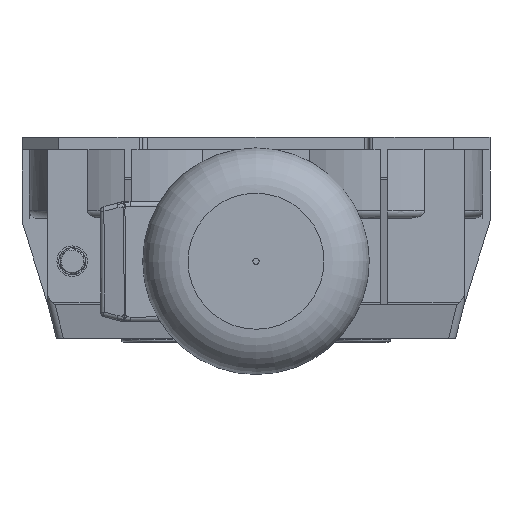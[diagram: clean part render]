
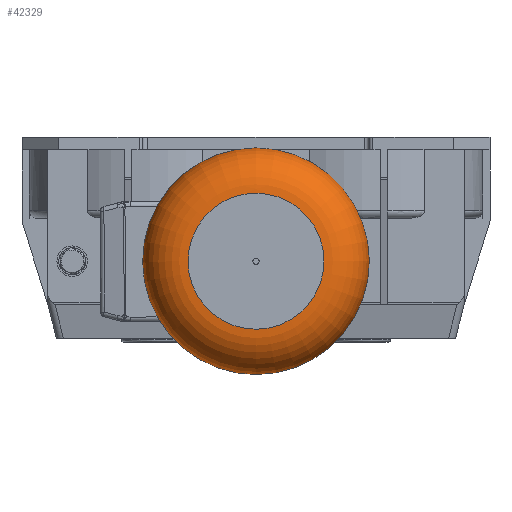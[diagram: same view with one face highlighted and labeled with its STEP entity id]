
A CAD part, front view. The second image highlights one B-rep face of the part: STEP entity #42329.
In plain terms, the highlighted toroidal (fillet/blend) face has major radius 55.5 mm and minor radius 37 mm.
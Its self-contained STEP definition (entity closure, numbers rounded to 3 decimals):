
#42302=CARTESIAN_POINT('',(399.,0.0,0.0));
#42303=DIRECTION('',(1.0,0.0,0.0));
#42304=DIRECTION('',(0.0,0.0,-1.0));
#42305=AXIS2_PLACEMENT_3D('',#42302,#42303,#42304);
#42306=TOROIDAL_SURFACE('',#42305,55.5,37.0);
#42307=CARTESIAN_POINT('',(436.0,55.5,0.0));
#42308=VERTEX_POINT('',#42307);
#42309=CARTESIAN_POINT('',(436.0,0.0,0.0));
#42310=DIRECTION('',(1.0,0.0,0.0));
#42311=DIRECTION('',(0.0,1.0,0.0));
#42312=AXIS2_PLACEMENT_3D('',#42309,#42310,#42311);
#42313=CIRCLE('',#42312,55.5);
#42314=EDGE_CURVE('',#42308,#42308,#42313,.T.);
#42315=ORIENTED_EDGE('',*,*,#42314,.F.);
#42316=EDGE_LOOP('',(#42315));
#42317=FACE_OUTER_BOUND('',#42316,.T.);
#42318=CARTESIAN_POINT('',(399.,92.5,0.0));
#42319=VERTEX_POINT('',#42318);
#42320=CARTESIAN_POINT('',(399.,0.0,0.0));
#42321=DIRECTION('',(1.0,0.0,0.0));
#42322=DIRECTION('',(0.0,1.0,0.0));
#42323=AXIS2_PLACEMENT_3D('',#42320,#42321,#42322);
#42324=CIRCLE('',#42323,92.5);
#42325=EDGE_CURVE('',#42319,#42319,#42324,.T.);
#42326=ORIENTED_EDGE('',*,*,#42325,.T.);
#42327=EDGE_LOOP('',(#42326));
#42328=FACE_BOUND('',#42327,.T.);
#42329=ADVANCED_FACE('',(#42317,#42328),#42306,.T.);
